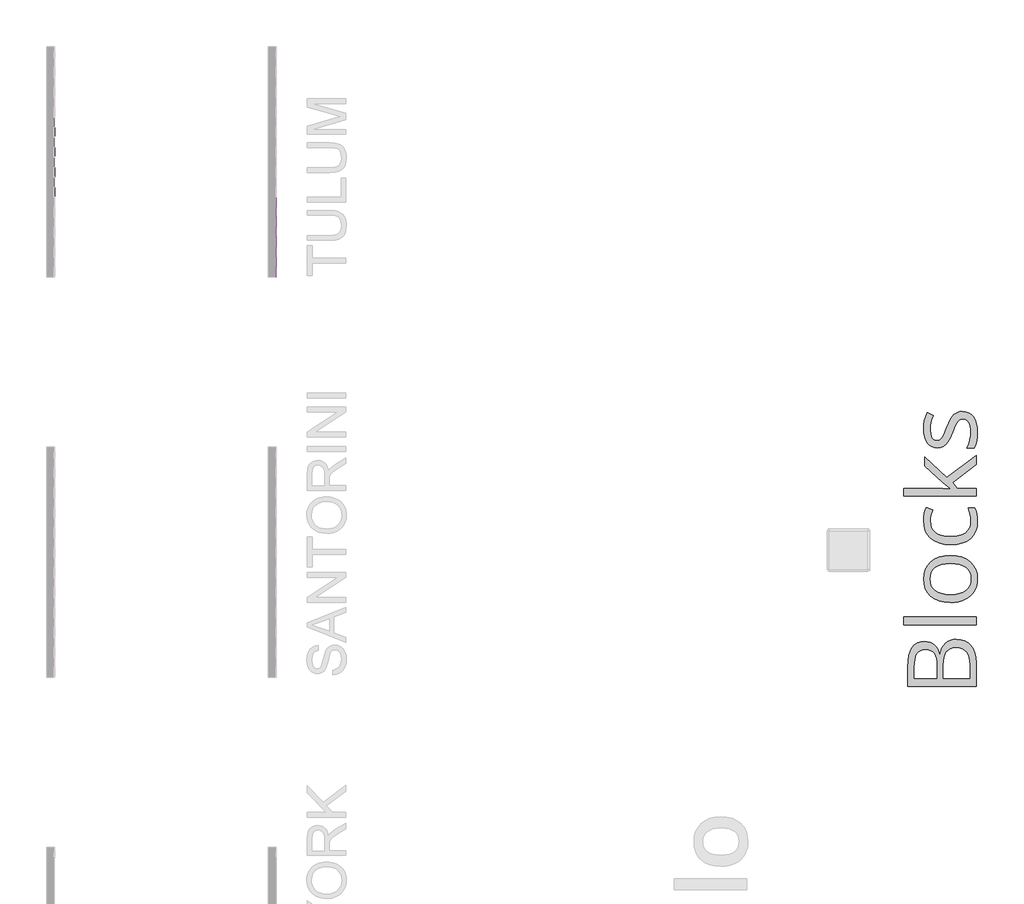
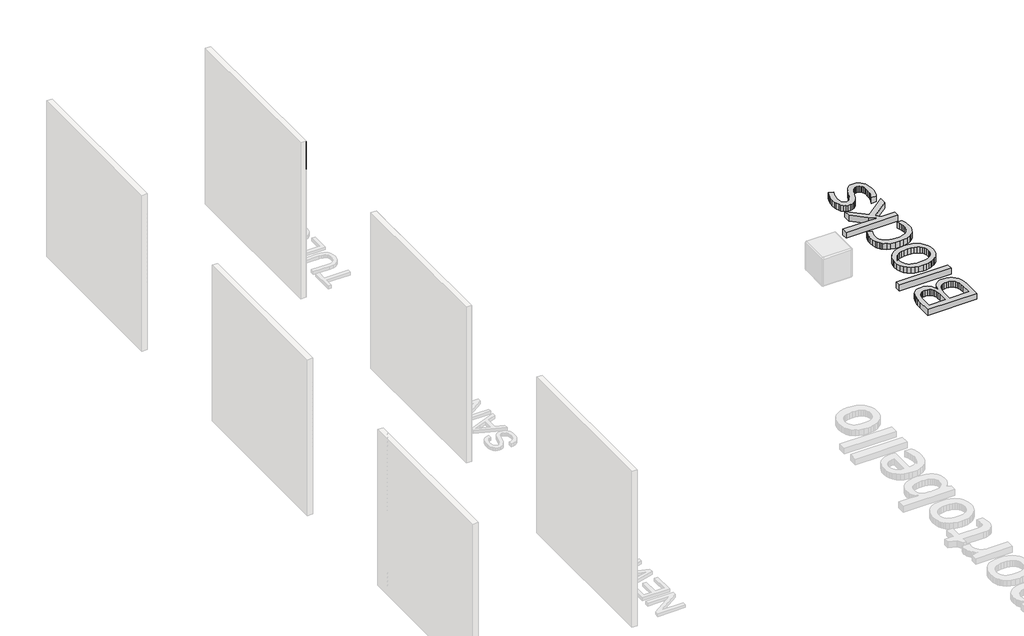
# One storey, part 34 of 45: 118 proxies.
"""IFC4 building model written with IfcOpenShell, lengths in millimetres."""

from ifc_helpers import new_model, si_unit, origin, origin_with_axes, place, context, project, spatial, polyline, outline, extrude, transform, mapped, element, save
from components import generic_models_ab0f2c30

model = new_model("IFC4")

# Units and contexts
model_context = context("Model", 3, world=origin())
ifc_project = project(units=[si_unit("LENGTHUNIT", "METRE", prefix="MILLI")], contexts=[model_context])

# Site, building, storey
site = spatial("IfcSite", under=ifc_project)
building = spatial("IfcBuilding", under=site)
storey = spatial("IfcBuildingStorey", under=building, Name="PORTOBELLO - SHOWROOM", Elevation=0.0)

# Proxies
placement = place(None, origin())
generic_models_shape = generic_models_ab0f2c30(model_context)
element("IfcBuildingElementProxy", 1, Name="PBSHOP - HORIZONTES TULUM 6,5X23 : TULUM", ObjectType="PBSHOP - HORIZONTES TULUM 6,5X23 : TULUM", at=placement, inside=storey, context=model_context, shape_type="MappedRepresentation", body=[
    mapped(generic_models_shape, transform((69111.8826867, 15186.0588567, 2242.5), x_axis=(0.0, 0.0, 1.0), y_axis=(0.0, -1.0, 0.0), z_axis=(1.0, 0.0, 0.0))),
])
element("IfcBuildingElementProxy", 2, Name="PBSHOP - HORIZONTES TULUM 6,5X23 : TULUM", ObjectType="PBSHOP - HORIZONTES TULUM 6,5X23 : TULUM", at=placement, inside=storey, context=model_context, shape_type="MappedRepresentation", body=[
    mapped(generic_models_shape, transform((69111.8826867, 15420.0588567, 2242.5), x_axis=(0.0, 0.0, 1.0), y_axis=(0.0, -1.0, 0.0), z_axis=(1.0, 0.0, 0.0))),
])
element("IfcBuildingElementProxy", 3, Name="PBSHOP - HORIZONTES TULUM 6,5X23 : TULUM", ObjectType="PBSHOP - HORIZONTES TULUM 6,5X23 : TULUM", at=placement, inside=storey, context=model_context, shape_type="MappedRepresentation", body=[
    mapped(generic_models_shape, transform((69111.8826867, 15654.0588567, 2242.5), x_axis=(0.0, 0.0, 1.0), y_axis=(0.0, -1.0, 0.0), z_axis=(1.0, 0.0, 0.0))),
])
element("IfcBuildingElementProxy", 4, Name="PBSHOP - HORIZONTES TULUM 6,5X23 : TULUM", ObjectType="PBSHOP - HORIZONTES TULUM 6,5X23 : TULUM", at=placement, inside=storey, context=model_context, shape_type="MappedRepresentation", body=[
    mapped(generic_models_shape, transform((69111.8826867, 15888.0588567, 2242.5), x_axis=(0.0, 0.0, 1.0), y_axis=(0.0, -1.0, 0.0), z_axis=(1.0, 0.0, 0.0))),
])
element("IfcBuildingElementProxy", 5, Name="PBSHOP - HORIZONTES TULUM 6,5X23 : TULUM", ObjectType="PBSHOP - HORIZONTES TULUM 6,5X23 : TULUM", at=placement, inside=storey, context=model_context, shape_type="MappedRepresentation", body=[
    mapped(generic_models_shape, transform((69111.8826867, 15186.0588567, 2311.5), x_axis=(0.0, 0.0, 1.0), y_axis=(0.0, -1.0, 0.0), z_axis=(1.0, 0.0, 0.0))),
])
element("IfcBuildingElementProxy", 6, Name="PBSHOP - HORIZONTES TULUM 6,5X23 : TULUM", ObjectType="PBSHOP - HORIZONTES TULUM 6,5X23 : TULUM", at=placement, inside=storey, context=model_context, shape_type="MappedRepresentation", body=[
    mapped(generic_models_shape, transform((69111.8826867, 15420.0588567, 2311.5), x_axis=(0.0, 0.0, 1.0), y_axis=(0.0, -1.0, 0.0), z_axis=(1.0, 0.0, 0.0))),
])
element("IfcBuildingElementProxy", 7, Name="PBSHOP - HORIZONTES TULUM 6,5X23 : TULUM", ObjectType="PBSHOP - HORIZONTES TULUM 6,5X23 : TULUM", at=placement, inside=storey, context=model_context, shape_type="MappedRepresentation", body=[
    mapped(generic_models_shape, transform((69111.8826867, 15654.0588567, 2311.5), x_axis=(0.0, 0.0, 1.0), y_axis=(0.0, -1.0, 0.0), z_axis=(1.0, 0.0, 0.0))),
])
element("IfcBuildingElementProxy", 8, Name="PBSHOP - HORIZONTES TULUM 6,5X23 : TULUM", ObjectType="PBSHOP - HORIZONTES TULUM 6,5X23 : TULUM", at=placement, inside=storey, context=model_context, shape_type="MappedRepresentation", body=[
    mapped(generic_models_shape, transform((69111.8826867, 15888.0588567, 2311.5), x_axis=(0.0, 0.0, 1.0), y_axis=(0.0, -1.0, 0.0), z_axis=(1.0, 0.0, 0.0))),
])
element("IfcBuildingElementProxy", 9, Name="PBSHOP - HORIZONTES TULUM 6,5X23 : TULUM", ObjectType="PBSHOP - HORIZONTES TULUM 6,5X23 : TULUM", at=placement, inside=storey, context=model_context, shape_type="MappedRepresentation", body=[
    mapped(generic_models_shape, transform((69111.8826867, 15186.0588567, 2380.5), x_axis=(0.0, 0.0, 1.0), y_axis=(0.0, -1.0, 0.0), z_axis=(1.0, 0.0, 0.0))),
])
element("IfcBuildingElementProxy", 10, Name="PBSHOP - HORIZONTES TULUM 6,5X23 : TULUM", ObjectType="PBSHOP - HORIZONTES TULUM 6,5X23 : TULUM", at=placement, inside=storey, context=model_context, shape_type="MappedRepresentation", body=[
    mapped(generic_models_shape, transform((69111.8826867, 15420.0588567, 2380.5), x_axis=(0.0, 0.0, 1.0), y_axis=(0.0, -1.0, 0.0), z_axis=(1.0, 0.0, 0.0))),
])
element("IfcBuildingElementProxy", 11, Name="PBSHOP - HORIZONTES TULUM 6,5X23 : TULUM", ObjectType="PBSHOP - HORIZONTES TULUM 6,5X23 : TULUM", at=placement, inside=storey, context=model_context, shape_type="MappedRepresentation", body=[
    mapped(generic_models_shape, transform((69111.8826867, 15654.0588567, 2380.5), x_axis=(0.0, 0.0, 1.0), y_axis=(0.0, -1.0, 0.0), z_axis=(1.0, 0.0, 0.0))),
])
element("IfcBuildingElementProxy", 12, Name="PBSHOP - HORIZONTES TULUM 6,5X23 : TULUM", ObjectType="PBSHOP - HORIZONTES TULUM 6,5X23 : TULUM", at=placement, inside=storey, context=model_context, shape_type="MappedRepresentation", body=[
    mapped(generic_models_shape, transform((69111.8826867, 15888.0588567, 2380.5), x_axis=(0.0, 0.0, 1.0), y_axis=(0.0, -1.0, 0.0), z_axis=(1.0, 0.0, 0.0))),
])
element("IfcBuildingElementProxy", 13, Name="PBSHOP - HORIZONTES TULUM 6,5X23 : TULUM", ObjectType="PBSHOP - HORIZONTES TULUM 6,5X23 : TULUM", at=placement, inside=storey, context=model_context, shape_type="MappedRepresentation", body=[
    mapped(generic_models_shape, transform((69111.8826867, 15186.0588567, 2449.5), x_axis=(0.0, 0.0, 1.0), y_axis=(0.0, -1.0, 0.0), z_axis=(1.0, 0.0, 0.0))),
])
element("IfcBuildingElementProxy", 14, Name="PBSHOP - HORIZONTES TULUM 6,5X23 : TULUM", ObjectType="PBSHOP - HORIZONTES TULUM 6,5X23 : TULUM", at=placement, inside=storey, context=model_context, shape_type="MappedRepresentation", body=[
    mapped(generic_models_shape, transform((69111.8826867, 15420.0588567, 2449.5), x_axis=(0.0, 0.0, 1.0), y_axis=(0.0, -1.0, 0.0), z_axis=(1.0, 0.0, 0.0))),
])
element("IfcBuildingElementProxy", 15, Name="PBSHOP - HORIZONTES TULUM 6,5X23 : TULUM", ObjectType="PBSHOP - HORIZONTES TULUM 6,5X23 : TULUM", at=placement, inside=storey, context=model_context, shape_type="MappedRepresentation", body=[
    mapped(generic_models_shape, transform((69111.8826867, 15654.0588567, 2449.5), x_axis=(0.0, 0.0, 1.0), y_axis=(0.0, -1.0, 0.0), z_axis=(1.0, 0.0, 0.0))),
])
element("IfcBuildingElementProxy", 16, Name="PBSHOP - HORIZONTES TULUM 6,5X23 : TULUM", ObjectType="PBSHOP - HORIZONTES TULUM 6,5X23 : TULUM", at=placement, inside=storey, context=model_context, shape_type="MappedRepresentation", body=[
    mapped(generic_models_shape, transform((69111.8826867, 15888.0588567, 2449.5), x_axis=(0.0, 0.0, 1.0), y_axis=(0.0, -1.0, 0.0), z_axis=(1.0, 0.0, 0.0))),
])
element("IfcBuildingElementProxy", 17, Name="PBSHOP - HORIZONTES TULUM 6,5X23 : TULUM", ObjectType="PBSHOP - HORIZONTES TULUM 6,5X23 : TULUM", at=placement, inside=storey, context=model_context, shape_type="MappedRepresentation", body=[
    mapped(generic_models_shape, transform((69111.8826867, 15186.0588567, 2518.5), x_axis=(0.0, 0.0, 1.0), y_axis=(0.0, -1.0, 0.0), z_axis=(1.0, 0.0, 0.0))),
])
element("IfcBuildingElementProxy", 18, Name="PBSHOP - HORIZONTES TULUM 6,5X23 : TULUM", ObjectType="PBSHOP - HORIZONTES TULUM 6,5X23 : TULUM", at=placement, inside=storey, context=model_context, shape_type="MappedRepresentation", body=[
    mapped(generic_models_shape, transform((69111.8826867, 15420.0588567, 2518.5), x_axis=(0.0, 0.0, 1.0), y_axis=(0.0, -1.0, 0.0), z_axis=(1.0, 0.0, 0.0))),
])
element("IfcBuildingElementProxy", 19, Name="PBSHOP - HORIZONTES TULUM 6,5X23 : TULUM", ObjectType="PBSHOP - HORIZONTES TULUM 6,5X23 : TULUM", at=placement, inside=storey, context=model_context, shape_type="MappedRepresentation", body=[
    mapped(generic_models_shape, transform((69111.8826867, 15654.0588567, 2518.5), x_axis=(0.0, 0.0, 1.0), y_axis=(0.0, -1.0, 0.0), z_axis=(1.0, 0.0, 0.0))),
])
element("IfcBuildingElementProxy", 20, Name="PBSHOP - HORIZONTES TULUM 6,5X23 : TULUM", ObjectType="PBSHOP - HORIZONTES TULUM 6,5X23 : TULUM", at=placement, inside=storey, context=model_context, shape_type="MappedRepresentation", body=[
    mapped(generic_models_shape, transform((69111.8826867, 15888.0588567, 2518.5), x_axis=(0.0, 0.0, 1.0), y_axis=(0.0, -1.0, 0.0), z_axis=(1.0, 0.0, 0.0))),
])
element("IfcBuildingElementProxy", 21, Name="PBSHOP - HORIZONTES TULUM 6,5X23 : TULUM", ObjectType="PBSHOP - HORIZONTES TULUM 6,5X23 : TULUM", at=placement, inside=storey, context=model_context, shape_type="MappedRepresentation", body=[
    mapped(generic_models_shape, transform((69111.8826867, 15186.0588567, 2587.5), x_axis=(0.0, 0.0, 1.0), y_axis=(0.0, -1.0, 0.0), z_axis=(1.0, 0.0, 0.0))),
])
element("IfcBuildingElementProxy", 22, Name="PBSHOP - HORIZONTES TULUM 6,5X23 : TULUM", ObjectType="PBSHOP - HORIZONTES TULUM 6,5X23 : TULUM", at=placement, inside=storey, context=model_context, shape_type="MappedRepresentation", body=[
    mapped(generic_models_shape, transform((69111.8826867, 15420.0588567, 2587.5), x_axis=(0.0, 0.0, 1.0), y_axis=(0.0, -1.0, 0.0), z_axis=(1.0, 0.0, 0.0))),
])
element("IfcBuildingElementProxy", 23, Name="PBSHOP - HORIZONTES TULUM 6,5X23 : TULUM", ObjectType="PBSHOP - HORIZONTES TULUM 6,5X23 : TULUM", at=placement, inside=storey, context=model_context, shape_type="MappedRepresentation", body=[
    mapped(generic_models_shape, transform((69111.8826867, 15654.0588567, 2587.5), x_axis=(0.0, 0.0, 1.0), y_axis=(0.0, -1.0, 0.0), z_axis=(1.0, 0.0, 0.0))),
])
element("IfcBuildingElementProxy", 24, Name="PBSHOP - HORIZONTES TULUM 6,5X23 : TULUM", ObjectType="PBSHOP - HORIZONTES TULUM 6,5X23 : TULUM", at=placement, inside=storey, context=model_context, shape_type="MappedRepresentation", body=[
    mapped(generic_models_shape, transform((69111.8826867, 15888.0588567, 2587.5), x_axis=(0.0, 0.0, 1.0), y_axis=(0.0, -1.0, 0.0), z_axis=(1.0, 0.0, 0.0))),
])
element("IfcBuildingElementProxy", 25, Name="PBSHOP - HORIZONTES TULUM 6,5X23 : TULUM", ObjectType="PBSHOP - HORIZONTES TULUM 6,5X23 : TULUM", at=placement, inside=storey, context=model_context, shape_type="MappedRepresentation", body=[
    mapped(generic_models_shape, transform((69111.8826867, 15186.0588567, 2656.5), x_axis=(0.0, 0.0, 1.0), y_axis=(0.0, -1.0, 0.0), z_axis=(1.0, 0.0, 0.0))),
])
element("IfcBuildingElementProxy", 26, Name="PBSHOP - HORIZONTES TULUM 6,5X23 : TULUM", ObjectType="PBSHOP - HORIZONTES TULUM 6,5X23 : TULUM", at=placement, inside=storey, context=model_context, shape_type="MappedRepresentation", body=[
    mapped(generic_models_shape, transform((69111.8826867, 15420.0588567, 2656.5), x_axis=(0.0, 0.0, 1.0), y_axis=(0.0, -1.0, 0.0), z_axis=(1.0, 0.0, 0.0))),
])
element("IfcBuildingElementProxy", 27, Name="PBSHOP - HORIZONTES TULUM 6,5X23 : TULUM", ObjectType="PBSHOP - HORIZONTES TULUM 6,5X23 : TULUM", at=placement, inside=storey, context=model_context, shape_type="MappedRepresentation", body=[
    mapped(generic_models_shape, transform((69111.8826867, 15654.0588567, 2656.5), x_axis=(0.0, 0.0, 1.0), y_axis=(0.0, -1.0, 0.0), z_axis=(1.0, 0.0, 0.0))),
])
element("IfcBuildingElementProxy", 28, Name="PBSHOP - HORIZONTES TULUM 6,5X23 : TULUM", ObjectType="PBSHOP - HORIZONTES TULUM 6,5X23 : TULUM", at=placement, inside=storey, context=model_context, shape_type="MappedRepresentation", body=[
    mapped(generic_models_shape, transform((69111.8826867, 15888.0588567, 2656.5), x_axis=(0.0, 0.0, 1.0), y_axis=(0.0, -1.0, 0.0), z_axis=(1.0, 0.0, 0.0))),
])
element("IfcBuildingElementProxy", 29, Name="PBSHOP - HORIZONTES TULUM 6,5X23 : TULUM AGAVE", ObjectType="PBSHOP - HORIZONTES TULUM 6,5X23 : TULUM AGAVE", at=placement, inside=storey, context=model_context, shape_type="MappedRepresentation", body=[
    mapped(generic_models_shape, transform((66511.8826867, 16122.0588567, 34.5), x_axis=(0.0, 0.0, 1.0), y_axis=(0.0, -1.0, 0.0), z_axis=(1.0, 0.0, 0.0))),
])
element("IfcBuildingElementProxy", 30, Name="PBSHOP - HORIZONTES TULUM 6,5X23 : TULUM AGAVE", ObjectType="PBSHOP - HORIZONTES TULUM 6,5X23 : TULUM AGAVE", at=placement, inside=storey, context=model_context, shape_type="MappedRepresentation", body=[
    mapped(generic_models_shape, transform((66511.8826867, 16356.0588567, 34.5), x_axis=(0.0, 0.0, 1.0), y_axis=(0.0, -1.0, 0.0), z_axis=(1.0, 0.0, 0.0))),
])
element("IfcBuildingElementProxy", 31, Name="PBSHOP - HORIZONTES TULUM 6,5X23 : TULUM AGAVE", ObjectType="PBSHOP - HORIZONTES TULUM 6,5X23 : TULUM AGAVE", at=placement, inside=storey, context=model_context, shape_type="MappedRepresentation", body=[
    mapped(generic_models_shape, transform((66511.8826867, 16590.0588567, 34.5), x_axis=(0.0, 0.0, 1.0), y_axis=(0.0, -1.0, 0.0), z_axis=(1.0, 0.0, 0.0))),
])
element("IfcBuildingElementProxy", 32, Name="PBSHOP - HORIZONTES TULUM 6,5X23 : TULUM AGAVE", ObjectType="PBSHOP - HORIZONTES TULUM 6,5X23 : TULUM AGAVE", at=placement, inside=storey, context=model_context, shape_type="MappedRepresentation", body=[
    mapped(generic_models_shape, transform((66511.8826867, 16824.0588567, 34.5), x_axis=(0.0, 0.0, 1.0), y_axis=(0.0, -1.0, 0.0), z_axis=(1.0, 0.0, 0.0))),
])
element("IfcBuildingElementProxy", 33, Name="PBSHOP - HORIZONTES TULUM 6,5X23 : TULUM AGAVE", ObjectType="PBSHOP - HORIZONTES TULUM 6,5X23 : TULUM AGAVE", at=placement, inside=storey, context=model_context, shape_type="MappedRepresentation", body=[
    mapped(generic_models_shape, transform((66511.8826867, 16122.0588567, 103.5), x_axis=(0.0, 0.0, 1.0), y_axis=(0.0, -1.0, 0.0), z_axis=(1.0, 0.0, 0.0))),
])
element("IfcBuildingElementProxy", 34, Name="PBSHOP - HORIZONTES TULUM 6,5X23 : TULUM AGAVE", ObjectType="PBSHOP - HORIZONTES TULUM 6,5X23 : TULUM AGAVE", at=placement, inside=storey, context=model_context, shape_type="MappedRepresentation", body=[
    mapped(generic_models_shape, transform((66511.8826867, 16356.0588567, 103.5), x_axis=(0.0, 0.0, 1.0), y_axis=(0.0, -1.0, 0.0), z_axis=(1.0, 0.0, 0.0))),
])
element("IfcBuildingElementProxy", 35, Name="PBSHOP - HORIZONTES TULUM 6,5X23 : TULUM AGAVE", ObjectType="PBSHOP - HORIZONTES TULUM 6,5X23 : TULUM AGAVE", at=placement, inside=storey, context=model_context, shape_type="MappedRepresentation", body=[
    mapped(generic_models_shape, transform((66511.8826867, 16590.0588567, 103.5), x_axis=(0.0, 0.0, 1.0), y_axis=(0.0, -1.0, 0.0), z_axis=(1.0, 0.0, 0.0))),
])
element("IfcBuildingElementProxy", 36, Name="PBSHOP - HORIZONTES TULUM 6,5X23 : TULUM AGAVE", ObjectType="PBSHOP - HORIZONTES TULUM 6,5X23 : TULUM AGAVE", at=placement, inside=storey, context=model_context, shape_type="MappedRepresentation", body=[
    mapped(generic_models_shape, transform((66511.8826867, 16824.0588567, 103.5), x_axis=(0.0, 0.0, 1.0), y_axis=(0.0, -1.0, 0.0), z_axis=(1.0, 0.0, 0.0))),
])
element("IfcBuildingElementProxy", 37, Name="PBSHOP - HORIZONTES TULUM 6,5X23 : TULUM AGAVE", ObjectType="PBSHOP - HORIZONTES TULUM 6,5X23 : TULUM AGAVE", at=placement, inside=storey, context=model_context, shape_type="MappedRepresentation", body=[
    mapped(generic_models_shape, transform((66511.8826867, 16122.0588567, 172.5), x_axis=(0.0, 0.0, 1.0), y_axis=(0.0, -1.0, 0.0), z_axis=(1.0, 0.0, 0.0))),
])
element("IfcBuildingElementProxy", 38, Name="PBSHOP - HORIZONTES TULUM 6,5X23 : TULUM AGAVE", ObjectType="PBSHOP - HORIZONTES TULUM 6,5X23 : TULUM AGAVE", at=placement, inside=storey, context=model_context, shape_type="MappedRepresentation", body=[
    mapped(generic_models_shape, transform((66511.8826867, 16356.0588567, 172.5), x_axis=(0.0, 0.0, 1.0), y_axis=(0.0, -1.0, 0.0), z_axis=(1.0, 0.0, 0.0))),
])
element("IfcBuildingElementProxy", 39, Name="PBSHOP - HORIZONTES TULUM 6,5X23 : TULUM AGAVE", ObjectType="PBSHOP - HORIZONTES TULUM 6,5X23 : TULUM AGAVE", at=placement, inside=storey, context=model_context, shape_type="MappedRepresentation", body=[
    mapped(generic_models_shape, transform((66511.8826867, 16590.0588567, 172.5), x_axis=(0.0, 0.0, 1.0), y_axis=(0.0, -1.0, 0.0), z_axis=(1.0, 0.0, 0.0))),
])
element("IfcBuildingElementProxy", 40, Name="PBSHOP - HORIZONTES TULUM 6,5X23 : TULUM AGAVE", ObjectType="PBSHOP - HORIZONTES TULUM 6,5X23 : TULUM AGAVE", at=placement, inside=storey, context=model_context, shape_type="MappedRepresentation", body=[
    mapped(generic_models_shape, transform((66511.8826867, 16824.0588567, 172.5), x_axis=(0.0, 0.0, 1.0), y_axis=(0.0, -1.0, 0.0), z_axis=(1.0, 0.0, 0.0))),
])
element("IfcBuildingElementProxy", 41, Name="PBSHOP - HORIZONTES TULUM 6,5X23 : TULUM AGAVE", ObjectType="PBSHOP - HORIZONTES TULUM 6,5X23 : TULUM AGAVE", at=placement, inside=storey, context=model_context, shape_type="MappedRepresentation", body=[
    mapped(generic_models_shape, transform((66511.8826867, 16122.0588567, 241.5), x_axis=(0.0, 0.0, 1.0), y_axis=(0.0, -1.0, 0.0), z_axis=(1.0, 0.0, 0.0))),
])
element("IfcBuildingElementProxy", 42, Name="PBSHOP - HORIZONTES TULUM 6,5X23 : TULUM AGAVE", ObjectType="PBSHOP - HORIZONTES TULUM 6,5X23 : TULUM AGAVE", at=placement, inside=storey, context=model_context, shape_type="MappedRepresentation", body=[
    mapped(generic_models_shape, transform((66511.8826867, 16356.0588567, 241.5), x_axis=(0.0, 0.0, 1.0), y_axis=(0.0, -1.0, 0.0), z_axis=(1.0, 0.0, 0.0))),
])
element("IfcBuildingElementProxy", 43, Name="PBSHOP - HORIZONTES TULUM 6,5X23 : TULUM AGAVE", ObjectType="PBSHOP - HORIZONTES TULUM 6,5X23 : TULUM AGAVE", at=placement, inside=storey, context=model_context, shape_type="MappedRepresentation", body=[
    mapped(generic_models_shape, transform((66511.8826867, 16590.0588567, 241.5), x_axis=(0.0, 0.0, 1.0), y_axis=(0.0, -1.0, 0.0), z_axis=(1.0, 0.0, 0.0))),
])
element("IfcBuildingElementProxy", 44, Name="PBSHOP - HORIZONTES TULUM 6,5X23 : TULUM AGAVE", ObjectType="PBSHOP - HORIZONTES TULUM 6,5X23 : TULUM AGAVE", at=placement, inside=storey, context=model_context, shape_type="MappedRepresentation", body=[
    mapped(generic_models_shape, transform((66511.8826867, 16824.0588567, 241.5), x_axis=(0.0, 0.0, 1.0), y_axis=(0.0, -1.0, 0.0), z_axis=(1.0, 0.0, 0.0))),
])
element("IfcBuildingElementProxy", 45, Name="PBSHOP - HORIZONTES TULUM 6,5X23 : TULUM AGAVE", ObjectType="PBSHOP - HORIZONTES TULUM 6,5X23 : TULUM AGAVE", at=placement, inside=storey, context=model_context, shape_type="MappedRepresentation", body=[
    mapped(generic_models_shape, transform((66511.8826867, 16122.0588567, 310.5), x_axis=(0.0, 0.0, 1.0), y_axis=(0.0, -1.0, 0.0), z_axis=(1.0, 0.0, 0.0))),
])
element("IfcBuildingElementProxy", 46, Name="PBSHOP - HORIZONTES TULUM 6,5X23 : TULUM AGAVE", ObjectType="PBSHOP - HORIZONTES TULUM 6,5X23 : TULUM AGAVE", at=placement, inside=storey, context=model_context, shape_type="MappedRepresentation", body=[
    mapped(generic_models_shape, transform((66511.8826867, 16356.0588567, 310.5), x_axis=(0.0, 0.0, 1.0), y_axis=(0.0, -1.0, 0.0), z_axis=(1.0, 0.0, 0.0))),
])
element("IfcBuildingElementProxy", 47, Name="PBSHOP - HORIZONTES TULUM 6,5X23 : TULUM AGAVE", ObjectType="PBSHOP - HORIZONTES TULUM 6,5X23 : TULUM AGAVE", at=placement, inside=storey, context=model_context, shape_type="MappedRepresentation", body=[
    mapped(generic_models_shape, transform((66511.8826867, 16590.0588567, 310.5), x_axis=(0.0, 0.0, 1.0), y_axis=(0.0, -1.0, 0.0), z_axis=(1.0, 0.0, 0.0))),
])
element("IfcBuildingElementProxy", 48, Name="PBSHOP - HORIZONTES TULUM 6,5X23 : TULUM AGAVE", ObjectType="PBSHOP - HORIZONTES TULUM 6,5X23 : TULUM AGAVE", at=placement, inside=storey, context=model_context, shape_type="MappedRepresentation", body=[
    mapped(generic_models_shape, transform((66511.8826867, 16824.0588567, 310.5), x_axis=(0.0, 0.0, 1.0), y_axis=(0.0, -1.0, 0.0), z_axis=(1.0, 0.0, 0.0))),
])
element("IfcBuildingElementProxy", 49, Name="PBSHOP - HORIZONTES TULUM 6,5X23 : TULUM AGAVE", ObjectType="PBSHOP - HORIZONTES TULUM 6,5X23 : TULUM AGAVE", at=placement, inside=storey, context=model_context, shape_type="MappedRepresentation", body=[
    mapped(generic_models_shape, transform((66511.8826867, 16122.0588567, 379.5), x_axis=(0.0, 0.0, 1.0), y_axis=(0.0, -1.0, 0.0), z_axis=(1.0, 0.0, 0.0))),
])
element("IfcBuildingElementProxy", 50, Name="PBSHOP - HORIZONTES TULUM 6,5X23 : TULUM AGAVE", ObjectType="PBSHOP - HORIZONTES TULUM 6,5X23 : TULUM AGAVE", at=placement, inside=storey, context=model_context, shape_type="MappedRepresentation", body=[
    mapped(generic_models_shape, transform((66511.8826867, 16356.0588567, 379.5), x_axis=(0.0, 0.0, 1.0), y_axis=(0.0, -1.0, 0.0), z_axis=(1.0, 0.0, 0.0))),
])
element("IfcBuildingElementProxy", 51, Name="PBSHOP - HORIZONTES TULUM 6,5X23 : TULUM AGAVE", ObjectType="PBSHOP - HORIZONTES TULUM 6,5X23 : TULUM AGAVE", at=placement, inside=storey, context=model_context, shape_type="MappedRepresentation", body=[
    mapped(generic_models_shape, transform((66511.8826867, 16590.0588567, 379.5), x_axis=(0.0, 0.0, 1.0), y_axis=(0.0, -1.0, 0.0), z_axis=(1.0, 0.0, 0.0))),
])
element("IfcBuildingElementProxy", 52, Name="PBSHOP - HORIZONTES TULUM 6,5X23 : TULUM AGAVE", ObjectType="PBSHOP - HORIZONTES TULUM 6,5X23 : TULUM AGAVE", at=placement, inside=storey, context=model_context, shape_type="MappedRepresentation", body=[
    mapped(generic_models_shape, transform((66511.8826867, 16824.0588567, 379.5), x_axis=(0.0, 0.0, 1.0), y_axis=(0.0, -1.0, 0.0), z_axis=(1.0, 0.0, 0.0))),
])
element("IfcBuildingElementProxy", 53, Name="PBSHOP - HORIZONTES TULUM 6,5X23 : TULUM AGAVE", ObjectType="PBSHOP - HORIZONTES TULUM 6,5X23 : TULUM AGAVE", at=placement, inside=storey, context=model_context, shape_type="MappedRepresentation", body=[
    mapped(generic_models_shape, transform((66511.8826867, 16122.0588567, 448.5), x_axis=(0.0, 0.0, 1.0), y_axis=(0.0, -1.0, 0.0), z_axis=(1.0, 0.0, 0.0))),
])
element("IfcBuildingElementProxy", 54, Name="PBSHOP - HORIZONTES TULUM 6,5X23 : TULUM AGAVE", ObjectType="PBSHOP - HORIZONTES TULUM 6,5X23 : TULUM AGAVE", at=placement, inside=storey, context=model_context, shape_type="MappedRepresentation", body=[
    mapped(generic_models_shape, transform((66511.8826867, 16356.0588567, 448.5), x_axis=(0.0, 0.0, 1.0), y_axis=(0.0, -1.0, 0.0), z_axis=(1.0, 0.0, 0.0))),
])
element("IfcBuildingElementProxy", 55, Name="PBSHOP - HORIZONTES TULUM 6,5X23 : TULUM AGAVE", ObjectType="PBSHOP - HORIZONTES TULUM 6,5X23 : TULUM AGAVE", at=placement, inside=storey, context=model_context, shape_type="MappedRepresentation", body=[
    mapped(generic_models_shape, transform((66511.8826867, 16590.0588567, 448.5), x_axis=(0.0, 0.0, 1.0), y_axis=(0.0, -1.0, 0.0), z_axis=(1.0, 0.0, 0.0))),
])
element("IfcBuildingElementProxy", 56, Name="PBSHOP - HORIZONTES TULUM 6,5X23 : TULUM AGAVE", ObjectType="PBSHOP - HORIZONTES TULUM 6,5X23 : TULUM AGAVE", at=placement, inside=storey, context=model_context, shape_type="MappedRepresentation", body=[
    mapped(generic_models_shape, transform((66511.8826867, 16824.0588567, 448.5), x_axis=(0.0, 0.0, 1.0), y_axis=(0.0, -1.0, 0.0), z_axis=(1.0, 0.0, 0.0))),
])
element("IfcBuildingElementProxy", 57, Name="PBSHOP - HORIZONTES TULUM 6,5X23 : TULUM AGAVE", ObjectType="PBSHOP - HORIZONTES TULUM 6,5X23 : TULUM AGAVE", at=placement, inside=storey, context=model_context, shape_type="MappedRepresentation", body=[
    mapped(generic_models_shape, transform((66511.8826867, 16122.0588567, 517.5), x_axis=(0.0, 0.0, 1.0), y_axis=(0.0, -1.0, 0.0), z_axis=(1.0, 0.0, 0.0))),
])
element("IfcBuildingElementProxy", 58, Name="PBSHOP - HORIZONTES TULUM 6,5X23 : TULUM AGAVE", ObjectType="PBSHOP - HORIZONTES TULUM 6,5X23 : TULUM AGAVE", at=placement, inside=storey, context=model_context, shape_type="MappedRepresentation", body=[
    mapped(generic_models_shape, transform((66511.8826867, 16356.0588567, 517.5), x_axis=(0.0, 0.0, 1.0), y_axis=(0.0, -1.0, 0.0), z_axis=(1.0, 0.0, 0.0))),
])
element("IfcBuildingElementProxy", 59, Name="PBSHOP - HORIZONTES TULUM 6,5X23 : TULUM AGAVE", ObjectType="PBSHOP - HORIZONTES TULUM 6,5X23 : TULUM AGAVE", at=placement, inside=storey, context=model_context, shape_type="MappedRepresentation", body=[
    mapped(generic_models_shape, transform((66511.8826867, 16590.0588567, 517.5), x_axis=(0.0, 0.0, 1.0), y_axis=(0.0, -1.0, 0.0), z_axis=(1.0, 0.0, 0.0))),
])
element("IfcBuildingElementProxy", 60, Name="PBSHOP - HORIZONTES TULUM 6,5X23 : TULUM AGAVE", ObjectType="PBSHOP - HORIZONTES TULUM 6,5X23 : TULUM AGAVE", at=placement, inside=storey, context=model_context, shape_type="MappedRepresentation", body=[
    mapped(generic_models_shape, transform((66511.8826867, 16824.0588567, 517.5), x_axis=(0.0, 0.0, 1.0), y_axis=(0.0, -1.0, 0.0), z_axis=(1.0, 0.0, 0.0))),
])
element("IfcBuildingElementProxy", 61, Name="PBSHOP - HORIZONTES TULUM 6,5X23 : TULUM AGAVE", ObjectType="PBSHOP - HORIZONTES TULUM 6,5X23 : TULUM AGAVE", at=placement, inside=storey, context=model_context, shape_type="MappedRepresentation", body=[
    mapped(generic_models_shape, transform((66511.8826867, 16122.0588567, 586.5), x_axis=(0.0, 0.0, 1.0), y_axis=(0.0, -1.0, 0.0), z_axis=(1.0, 0.0, 0.0))),
])
element("IfcBuildingElementProxy", 62, Name="PBSHOP - HORIZONTES TULUM 6,5X23 : TULUM AGAVE", ObjectType="PBSHOP - HORIZONTES TULUM 6,5X23 : TULUM AGAVE", at=placement, inside=storey, context=model_context, shape_type="MappedRepresentation", body=[
    mapped(generic_models_shape, transform((66511.8826867, 16356.0588567, 586.5), x_axis=(0.0, 0.0, 1.0), y_axis=(0.0, -1.0, 0.0), z_axis=(1.0, 0.0, 0.0))),
])
element("IfcBuildingElementProxy", 63, Name="PBSHOP - HORIZONTES TULUM 6,5X23 : TULUM AGAVE", ObjectType="PBSHOP - HORIZONTES TULUM 6,5X23 : TULUM AGAVE", at=placement, inside=storey, context=model_context, shape_type="MappedRepresentation", body=[
    mapped(generic_models_shape, transform((66511.8826867, 16590.0588567, 586.5), x_axis=(0.0, 0.0, 1.0), y_axis=(0.0, -1.0, 0.0), z_axis=(1.0, 0.0, 0.0))),
])
element("IfcBuildingElementProxy", 64, Name="PBSHOP - HORIZONTES TULUM 6,5X23 : TULUM AGAVE", ObjectType="PBSHOP - HORIZONTES TULUM 6,5X23 : TULUM AGAVE", at=placement, inside=storey, context=model_context, shape_type="MappedRepresentation", body=[
    mapped(generic_models_shape, transform((66511.8826867, 16824.0588567, 586.5), x_axis=(0.0, 0.0, 1.0), y_axis=(0.0, -1.0, 0.0), z_axis=(1.0, 0.0, 0.0))),
])
element("IfcBuildingElementProxy", 65, Name="PBSHOP - HORIZONTES TULUM 6,5X23 : TULUM AGAVE", ObjectType="PBSHOP - HORIZONTES TULUM 6,5X23 : TULUM AGAVE", at=placement, inside=storey, context=model_context, shape_type="MappedRepresentation", body=[
    mapped(generic_models_shape, transform((66511.8826867, 16122.0588567, 655.5), x_axis=(0.0, 0.0, 1.0), y_axis=(0.0, -1.0, 0.0), z_axis=(1.0, 0.0, 0.0))),
])
element("IfcBuildingElementProxy", 66, Name="PBSHOP - HORIZONTES TULUM 6,5X23 : TULUM AGAVE", ObjectType="PBSHOP - HORIZONTES TULUM 6,5X23 : TULUM AGAVE", at=placement, inside=storey, context=model_context, shape_type="MappedRepresentation", body=[
    mapped(generic_models_shape, transform((66511.8826867, 16356.0588567, 655.5), x_axis=(0.0, 0.0, 1.0), y_axis=(0.0, -1.0, 0.0), z_axis=(1.0, 0.0, 0.0))),
])
element("IfcBuildingElementProxy", 67, Name="PBSHOP - HORIZONTES TULUM 6,5X23 : TULUM AGAVE", ObjectType="PBSHOP - HORIZONTES TULUM 6,5X23 : TULUM AGAVE", at=placement, inside=storey, context=model_context, shape_type="MappedRepresentation", body=[
    mapped(generic_models_shape, transform((66511.8826867, 16590.0588567, 655.5), x_axis=(0.0, 0.0, 1.0), y_axis=(0.0, -1.0, 0.0), z_axis=(1.0, 0.0, 0.0))),
])
element("IfcBuildingElementProxy", 68, Name="PBSHOP - HORIZONTES TULUM 6,5X23 : TULUM AGAVE", ObjectType="PBSHOP - HORIZONTES TULUM 6,5X23 : TULUM AGAVE", at=placement, inside=storey, context=model_context, shape_type="MappedRepresentation", body=[
    mapped(generic_models_shape, transform((66511.8826867, 16824.0588567, 655.5), x_axis=(0.0, 0.0, 1.0), y_axis=(0.0, -1.0, 0.0), z_axis=(1.0, 0.0, 0.0))),
])
element("IfcBuildingElementProxy", 69, Name="PBSHOP - HORIZONTES TULUM 6,5X23 : TULUM AGAVE", ObjectType="PBSHOP - HORIZONTES TULUM 6,5X23 : TULUM AGAVE", at=placement, inside=storey, context=model_context, shape_type="MappedRepresentation", body=[
    mapped(generic_models_shape, transform((66511.8826867, 16122.0588567, 724.5), x_axis=(0.0, 0.0, 1.0), y_axis=(0.0, -1.0, 0.0), z_axis=(1.0, 0.0, 0.0))),
])
element("IfcBuildingElementProxy", 70, Name="PBSHOP - HORIZONTES TULUM 6,5X23 : TULUM AGAVE", ObjectType="PBSHOP - HORIZONTES TULUM 6,5X23 : TULUM AGAVE", at=placement, inside=storey, context=model_context, shape_type="MappedRepresentation", body=[
    mapped(generic_models_shape, transform((66511.8826867, 16356.0588567, 724.5), x_axis=(0.0, 0.0, 1.0), y_axis=(0.0, -1.0, 0.0), z_axis=(1.0, 0.0, 0.0))),
])
element("IfcBuildingElementProxy", 71, Name="PBSHOP - HORIZONTES TULUM 6,5X23 : TULUM AGAVE", ObjectType="PBSHOP - HORIZONTES TULUM 6,5X23 : TULUM AGAVE", at=placement, inside=storey, context=model_context, shape_type="MappedRepresentation", body=[
    mapped(generic_models_shape, transform((66511.8826867, 16590.0588567, 724.5), x_axis=(0.0, 0.0, 1.0), y_axis=(0.0, -1.0, 0.0), z_axis=(1.0, 0.0, 0.0))),
])
element("IfcBuildingElementProxy", 72, Name="PBSHOP - HORIZONTES TULUM 6,5X23 : TULUM AGAVE", ObjectType="PBSHOP - HORIZONTES TULUM 6,5X23 : TULUM AGAVE", at=placement, inside=storey, context=model_context, shape_type="MappedRepresentation", body=[
    mapped(generic_models_shape, transform((66511.8826867, 16824.0588567, 724.5), x_axis=(0.0, 0.0, 1.0), y_axis=(0.0, -1.0, 0.0), z_axis=(1.0, 0.0, 0.0))),
])
element("IfcBuildingElementProxy", 73, Name="PBSHOP - HORIZONTES TULUM 6,5X23 : TULUM AGAVE", ObjectType="PBSHOP - HORIZONTES TULUM 6,5X23 : TULUM AGAVE", at=placement, inside=storey, context=model_context, shape_type="MappedRepresentation", body=[
    mapped(generic_models_shape, transform((66511.8826867, 16122.0588567, 793.5), x_axis=(0.0, 0.0, 1.0), y_axis=(0.0, -1.0, 0.0), z_axis=(1.0, 0.0, 0.0))),
])
element("IfcBuildingElementProxy", 74, Name="PBSHOP - HORIZONTES TULUM 6,5X23 : TULUM AGAVE", ObjectType="PBSHOP - HORIZONTES TULUM 6,5X23 : TULUM AGAVE", at=placement, inside=storey, context=model_context, shape_type="MappedRepresentation", body=[
    mapped(generic_models_shape, transform((66511.8826867, 16356.0588567, 793.5), x_axis=(0.0, 0.0, 1.0), y_axis=(0.0, -1.0, 0.0), z_axis=(1.0, 0.0, 0.0))),
])
element("IfcBuildingElementProxy", 75, Name="PBSHOP - HORIZONTES TULUM 6,5X23 : TULUM AGAVE", ObjectType="PBSHOP - HORIZONTES TULUM 6,5X23 : TULUM AGAVE", at=placement, inside=storey, context=model_context, shape_type="MappedRepresentation", body=[
    mapped(generic_models_shape, transform((66511.8826867, 16590.0588567, 793.5), x_axis=(0.0, 0.0, 1.0), y_axis=(0.0, -1.0, 0.0), z_axis=(1.0, 0.0, 0.0))),
])
element("IfcBuildingElementProxy", 76, Name="PBSHOP - HORIZONTES TULUM 6,5X23 : TULUM AGAVE", ObjectType="PBSHOP - HORIZONTES TULUM 6,5X23 : TULUM AGAVE", at=placement, inside=storey, context=model_context, shape_type="MappedRepresentation", body=[
    mapped(generic_models_shape, transform((66511.8826867, 16824.0588567, 793.5), x_axis=(0.0, 0.0, 1.0), y_axis=(0.0, -1.0, 0.0), z_axis=(1.0, 0.0, 0.0))),
])
element("IfcBuildingElementProxy", 77, Name="PBSHOP - HORIZONTES TULUM 6,5X23 : TULUM AGAVE", ObjectType="PBSHOP - HORIZONTES TULUM 6,5X23 : TULUM AGAVE", at=placement, inside=storey, context=model_context, shape_type="MappedRepresentation", body=[
    mapped(generic_models_shape, transform((66511.8826867, 16122.0588567, 862.5), x_axis=(0.0, 0.0, 1.0), y_axis=(0.0, -1.0, 0.0), z_axis=(1.0, 0.0, 0.0))),
])
element("IfcBuildingElementProxy", 78, Name="PBSHOP - HORIZONTES TULUM 6,5X23 : TULUM AGAVE", ObjectType="PBSHOP - HORIZONTES TULUM 6,5X23 : TULUM AGAVE", at=placement, inside=storey, context=model_context, shape_type="MappedRepresentation", body=[
    mapped(generic_models_shape, transform((66511.8826867, 16356.0588567, 862.5), x_axis=(0.0, 0.0, 1.0), y_axis=(0.0, -1.0, 0.0), z_axis=(1.0, 0.0, 0.0))),
])
element("IfcBuildingElementProxy", 79, Name="PBSHOP - HORIZONTES TULUM 6,5X23 : TULUM AGAVE", ObjectType="PBSHOP - HORIZONTES TULUM 6,5X23 : TULUM AGAVE", at=placement, inside=storey, context=model_context, shape_type="MappedRepresentation", body=[
    mapped(generic_models_shape, transform((66511.8826867, 16590.0588567, 862.5), x_axis=(0.0, 0.0, 1.0), y_axis=(0.0, -1.0, 0.0), z_axis=(1.0, 0.0, 0.0))),
])
element("IfcBuildingElementProxy", 80, Name="PBSHOP - HORIZONTES TULUM 6,5X23 : TULUM AGAVE", ObjectType="PBSHOP - HORIZONTES TULUM 6,5X23 : TULUM AGAVE", at=placement, inside=storey, context=model_context, shape_type="MappedRepresentation", body=[
    mapped(generic_models_shape, transform((66511.8826867, 16824.0588567, 862.5), x_axis=(0.0, 0.0, 1.0), y_axis=(0.0, -1.0, 0.0), z_axis=(1.0, 0.0, 0.0))),
])
element("IfcBuildingElementProxy", 81, Name="PBSHOP - HORIZONTES TULUM 6,5X23 : TULUM AGAVE", ObjectType="PBSHOP - HORIZONTES TULUM 6,5X23 : TULUM AGAVE", at=placement, inside=storey, context=model_context, shape_type="MappedRepresentation", body=[
    mapped(generic_models_shape, transform((66511.8826867, 16122.0588567, 931.5), x_axis=(0.0, 0.0, 1.0), y_axis=(0.0, -1.0, 0.0), z_axis=(1.0, 0.0, 0.0))),
])
element("IfcBuildingElementProxy", 82, Name="PBSHOP - HORIZONTES TULUM 6,5X23 : TULUM AGAVE", ObjectType="PBSHOP - HORIZONTES TULUM 6,5X23 : TULUM AGAVE", at=placement, inside=storey, context=model_context, shape_type="MappedRepresentation", body=[
    mapped(generic_models_shape, transform((66511.8826867, 16356.0588567, 931.5), x_axis=(0.0, 0.0, 1.0), y_axis=(0.0, -1.0, 0.0), z_axis=(1.0, 0.0, 0.0))),
])
element("IfcBuildingElementProxy", 83, Name="PBSHOP - HORIZONTES TULUM 6,5X23 : TULUM AGAVE", ObjectType="PBSHOP - HORIZONTES TULUM 6,5X23 : TULUM AGAVE", at=placement, inside=storey, context=model_context, shape_type="MappedRepresentation", body=[
    mapped(generic_models_shape, transform((66511.8826867, 16590.0588567, 931.5), x_axis=(0.0, 0.0, 1.0), y_axis=(0.0, -1.0, 0.0), z_axis=(1.0, 0.0, 0.0))),
])
element("IfcBuildingElementProxy", 84, Name="PBSHOP - HORIZONTES TULUM 6,5X23 : TULUM AGAVE", ObjectType="PBSHOP - HORIZONTES TULUM 6,5X23 : TULUM AGAVE", at=placement, inside=storey, context=model_context, shape_type="MappedRepresentation", body=[
    mapped(generic_models_shape, transform((66511.8826867, 16824.0588567, 931.5), x_axis=(0.0, 0.0, 1.0), y_axis=(0.0, -1.0, 0.0), z_axis=(1.0, 0.0, 0.0))),
])
element("IfcBuildingElementProxy", 85, Name="PBSHOP - HORIZONTES TULUM 6,5X23 : TULUM AGAVE", ObjectType="PBSHOP - HORIZONTES TULUM 6,5X23 : TULUM AGAVE", at=placement, inside=storey, context=model_context, shape_type="MappedRepresentation", body=[
    mapped(generic_models_shape, transform((66511.8826867, 16122.0588567, 1000.5), x_axis=(0.0, 0.0, 1.0), y_axis=(0.0, -1.0, 0.0), z_axis=(1.0, 0.0, 0.0))),
])
element("IfcBuildingElementProxy", 86, Name="PBSHOP - HORIZONTES TULUM 6,5X23 : TULUM AGAVE", ObjectType="PBSHOP - HORIZONTES TULUM 6,5X23 : TULUM AGAVE", at=placement, inside=storey, context=model_context, shape_type="MappedRepresentation", body=[
    mapped(generic_models_shape, transform((66511.8826867, 16356.0588567, 1000.5), x_axis=(0.0, 0.0, 1.0), y_axis=(0.0, -1.0, 0.0), z_axis=(1.0, 0.0, 0.0))),
])
element("IfcBuildingElementProxy", 87, Name="PBSHOP - HORIZONTES TULUM 6,5X23 : TULUM AGAVE", ObjectType="PBSHOP - HORIZONTES TULUM 6,5X23 : TULUM AGAVE", at=placement, inside=storey, context=model_context, shape_type="MappedRepresentation", body=[
    mapped(generic_models_shape, transform((66511.8826867, 16590.0588567, 1000.5), x_axis=(0.0, 0.0, 1.0), y_axis=(0.0, -1.0, 0.0), z_axis=(1.0, 0.0, 0.0))),
])
element("IfcBuildingElementProxy", 88, Name="PBSHOP - HORIZONTES TULUM 6,5X23 : TULUM AGAVE", ObjectType="PBSHOP - HORIZONTES TULUM 6,5X23 : TULUM AGAVE", at=placement, inside=storey, context=model_context, shape_type="MappedRepresentation", body=[
    mapped(generic_models_shape, transform((66511.8826867, 16824.0588567, 1000.5), x_axis=(0.0, 0.0, 1.0), y_axis=(0.0, -1.0, 0.0), z_axis=(1.0, 0.0, 0.0))),
])
element("IfcBuildingElementProxy", 89, Name="PBSHOP - HORIZONTES TULUM 6,5X23 : TULUM AGAVE", ObjectType="PBSHOP - HORIZONTES TULUM 6,5X23 : TULUM AGAVE", at=placement, inside=storey, context=model_context, shape_type="MappedRepresentation", body=[
    mapped(generic_models_shape, transform((66511.8826867, 16122.0588567, 1069.5), x_axis=(0.0, 0.0, 1.0), y_axis=(0.0, -1.0, 0.0), z_axis=(1.0, 0.0, 0.0))),
])
element("IfcBuildingElementProxy", 90, Name="PBSHOP - HORIZONTES TULUM 6,5X23 : TULUM AGAVE", ObjectType="PBSHOP - HORIZONTES TULUM 6,5X23 : TULUM AGAVE", at=placement, inside=storey, context=model_context, shape_type="MappedRepresentation", body=[
    mapped(generic_models_shape, transform((66511.8826867, 16356.0588567, 1069.5), x_axis=(0.0, 0.0, 1.0), y_axis=(0.0, -1.0, 0.0), z_axis=(1.0, 0.0, 0.0))),
])
element("IfcBuildingElementProxy", 91, Name="PBSHOP - HORIZONTES TULUM 6,5X23 : TULUM AGAVE", ObjectType="PBSHOP - HORIZONTES TULUM 6,5X23 : TULUM AGAVE", at=placement, inside=storey, context=model_context, shape_type="MappedRepresentation", body=[
    mapped(generic_models_shape, transform((66511.8826867, 16590.0588567, 1069.5), x_axis=(0.0, 0.0, 1.0), y_axis=(0.0, -1.0, 0.0), z_axis=(1.0, 0.0, 0.0))),
])
element("IfcBuildingElementProxy", 92, Name="PBSHOP - HORIZONTES TULUM 6,5X23 : TULUM AGAVE", ObjectType="PBSHOP - HORIZONTES TULUM 6,5X23 : TULUM AGAVE", at=placement, inside=storey, context=model_context, shape_type="MappedRepresentation", body=[
    mapped(generic_models_shape, transform((66511.8826867, 16824.0588567, 1069.5), x_axis=(0.0, 0.0, 1.0), y_axis=(0.0, -1.0, 0.0), z_axis=(1.0, 0.0, 0.0))),
])
element("IfcBuildingElementProxy", 93, Name="PBSHOP - HORIZONTES TULUM 6,5X23 : TULUM AGAVE", ObjectType="PBSHOP - HORIZONTES TULUM 6,5X23 : TULUM AGAVE", at=placement, inside=storey, context=model_context, shape_type="MappedRepresentation", body=[
    mapped(generic_models_shape, transform((66511.8826867, 16122.0588567, 1138.5), x_axis=(0.0, 0.0, 1.0), y_axis=(0.0, -1.0, 0.0), z_axis=(1.0, 0.0, 0.0))),
])
element("IfcBuildingElementProxy", 94, Name="PBSHOP - HORIZONTES TULUM 6,5X23 : TULUM AGAVE", ObjectType="PBSHOP - HORIZONTES TULUM 6,5X23 : TULUM AGAVE", at=placement, inside=storey, context=model_context, shape_type="MappedRepresentation", body=[
    mapped(generic_models_shape, transform((66511.8826867, 16356.0588567, 1138.5), x_axis=(0.0, 0.0, 1.0), y_axis=(0.0, -1.0, 0.0), z_axis=(1.0, 0.0, 0.0))),
])
element("IfcBuildingElementProxy", 95, Name="PBSHOP - HORIZONTES TULUM 6,5X23 : TULUM AGAVE", ObjectType="PBSHOP - HORIZONTES TULUM 6,5X23 : TULUM AGAVE", at=placement, inside=storey, context=model_context, shape_type="MappedRepresentation", body=[
    mapped(generic_models_shape, transform((66511.8826867, 16590.0588567, 1138.5), x_axis=(0.0, 0.0, 1.0), y_axis=(0.0, -1.0, 0.0), z_axis=(1.0, 0.0, 0.0))),
])
element("IfcBuildingElementProxy", 96, Name="PBSHOP - HORIZONTES TULUM 6,5X23 : TULUM AGAVE", ObjectType="PBSHOP - HORIZONTES TULUM 6,5X23 : TULUM AGAVE", at=placement, inside=storey, context=model_context, shape_type="MappedRepresentation", body=[
    mapped(generic_models_shape, transform((66511.8826867, 16824.0588567, 1138.5), x_axis=(0.0, 0.0, 1.0), y_axis=(0.0, -1.0, 0.0), z_axis=(1.0, 0.0, 0.0))),
])
element("IfcBuildingElementProxy", 97, Name="PBSHOP - HORIZONTES TULUM 6,5X23 : TULUM AGAVE", ObjectType="PBSHOP - HORIZONTES TULUM 6,5X23 : TULUM AGAVE", at=placement, inside=storey, context=model_context, shape_type="MappedRepresentation", body=[
    mapped(generic_models_shape, transform((66511.8826867, 16122.0588567, 1207.5), x_axis=(0.0, 0.0, 1.0), y_axis=(0.0, -1.0, 0.0), z_axis=(1.0, 0.0, 0.0))),
])
element("IfcBuildingElementProxy", 98, Name="PBSHOP - HORIZONTES TULUM 6,5X23 : TULUM AGAVE", ObjectType="PBSHOP - HORIZONTES TULUM 6,5X23 : TULUM AGAVE", at=placement, inside=storey, context=model_context, shape_type="MappedRepresentation", body=[
    mapped(generic_models_shape, transform((66511.8826867, 16356.0588567, 1207.5), x_axis=(0.0, 0.0, 1.0), y_axis=(0.0, -1.0, 0.0), z_axis=(1.0, 0.0, 0.0))),
])
element("IfcBuildingElementProxy", 99, Name="PBSHOP - HORIZONTES TULUM 6,5X23 : TULUM AGAVE", ObjectType="PBSHOP - HORIZONTES TULUM 6,5X23 : TULUM AGAVE", at=placement, inside=storey, context=model_context, shape_type="MappedRepresentation", body=[
    mapped(generic_models_shape, transform((66511.8826867, 16590.0588567, 1207.5), x_axis=(0.0, 0.0, 1.0), y_axis=(0.0, -1.0, 0.0), z_axis=(1.0, 0.0, 0.0))),
])
element("IfcBuildingElementProxy", 100, Name="PBSHOP - HORIZONTES TULUM 6,5X23 : TULUM AGAVE", ObjectType="PBSHOP - HORIZONTES TULUM 6,5X23 : TULUM AGAVE", at=placement, inside=storey, context=model_context, shape_type="MappedRepresentation", body=[
    mapped(generic_models_shape, transform((66511.8826867, 16824.0588567, 1207.5), x_axis=(0.0, 0.0, 1.0), y_axis=(0.0, -1.0, 0.0), z_axis=(1.0, 0.0, 0.0))),
])
element("IfcBuildingElementProxy", 101, Name="PBSHOP - HORIZONTES TULUM 6,5X23 : TULUM AGAVE", ObjectType="PBSHOP - HORIZONTES TULUM 6,5X23 : TULUM AGAVE", at=placement, inside=storey, context=model_context, shape_type="MappedRepresentation", body=[
    mapped(generic_models_shape, transform((66511.8826867, 16122.0588567, 1276.5), x_axis=(0.0, 0.0, 1.0), y_axis=(0.0, -1.0, 0.0), z_axis=(1.0, 0.0, 0.0))),
])
element("IfcBuildingElementProxy", 102, Name="PBSHOP - HORIZONTES TULUM 6,5X23 : TULUM AGAVE", ObjectType="PBSHOP - HORIZONTES TULUM 6,5X23 : TULUM AGAVE", at=placement, inside=storey, context=model_context, shape_type="MappedRepresentation", body=[
    mapped(generic_models_shape, transform((66511.8826867, 16356.0588567, 1276.5), x_axis=(0.0, 0.0, 1.0), y_axis=(0.0, -1.0, 0.0), z_axis=(1.0, 0.0, 0.0))),
])
element("IfcBuildingElementProxy", 103, Name="PBSHOP - HORIZONTES TULUM 6,5X23 : TULUM AGAVE", ObjectType="PBSHOP - HORIZONTES TULUM 6,5X23 : TULUM AGAVE", at=placement, inside=storey, context=model_context, shape_type="MappedRepresentation", body=[
    mapped(generic_models_shape, transform((66511.8826867, 16590.0588567, 1276.5), x_axis=(0.0, 0.0, 1.0), y_axis=(0.0, -1.0, 0.0), z_axis=(1.0, 0.0, 0.0))),
])
element("IfcBuildingElementProxy", 104, Name="PBSHOP - HORIZONTES TULUM 6,5X23 : TULUM AGAVE", ObjectType="PBSHOP - HORIZONTES TULUM 6,5X23 : TULUM AGAVE", at=placement, inside=storey, context=model_context, shape_type="MappedRepresentation", body=[
    mapped(generic_models_shape, transform((66511.8826867, 16824.0588567, 1276.5), x_axis=(0.0, 0.0, 1.0), y_axis=(0.0, -1.0, 0.0), z_axis=(1.0, 0.0, 0.0))),
])
element("IfcBuildingElementProxy", 105, Name="PBSHOP - HORIZONTES TULUM 6,5X23 : TULUM AGAVE", ObjectType="PBSHOP - HORIZONTES TULUM 6,5X23 : TULUM AGAVE", at=placement, inside=storey, context=model_context, shape_type="MappedRepresentation", body=[
    mapped(generic_models_shape, transform((66511.8826867, 16122.0588567, 1345.5), x_axis=(0.0, 0.0, 1.0), y_axis=(0.0, -1.0, 0.0), z_axis=(1.0, 0.0, 0.0))),
])
element("IfcBuildingElementProxy", 106, Name="PBSHOP - HORIZONTES TULUM 6,5X23 : TULUM AGAVE", ObjectType="PBSHOP - HORIZONTES TULUM 6,5X23 : TULUM AGAVE", at=placement, inside=storey, context=model_context, shape_type="MappedRepresentation", body=[
    mapped(generic_models_shape, transform((66511.8826867, 16356.0588567, 1345.5), x_axis=(0.0, 0.0, 1.0), y_axis=(0.0, -1.0, 0.0), z_axis=(1.0, 0.0, 0.0))),
])
element("IfcBuildingElementProxy", 107, Name="PBSHOP - HORIZONTES TULUM 6,5X23 : TULUM AGAVE", ObjectType="PBSHOP - HORIZONTES TULUM 6,5X23 : TULUM AGAVE", at=placement, inside=storey, context=model_context, shape_type="MappedRepresentation", body=[
    mapped(generic_models_shape, transform((66511.8826867, 16590.0588567, 1345.5), x_axis=(0.0, 0.0, 1.0), y_axis=(0.0, -1.0, 0.0), z_axis=(1.0, 0.0, 0.0))),
])
element("IfcBuildingElementProxy", 108, Name="PBSHOP - HORIZONTES TULUM 6,5X23 : TULUM AGAVE", ObjectType="PBSHOP - HORIZONTES TULUM 6,5X23 : TULUM AGAVE", at=placement, inside=storey, context=model_context, shape_type="MappedRepresentation", body=[
    mapped(generic_models_shape, transform((66511.8826867, 16824.0588567, 1345.5), x_axis=(0.0, 0.0, 1.0), y_axis=(0.0, -1.0, 0.0), z_axis=(1.0, 0.0, 0.0))),
])
element("IfcBuildingElementProxy", 109, Name="PBSHOP - HORIZONTES TULUM 6,5X23 : TULUM AGAVE", ObjectType="PBSHOP - HORIZONTES TULUM 6,5X23 : TULUM AGAVE", at=placement, inside=storey, context=model_context, shape_type="MappedRepresentation", body=[
    mapped(generic_models_shape, transform((66511.8826867, 16122.0588567, 1414.5), x_axis=(0.0, 0.0, 1.0), y_axis=(0.0, -1.0, 0.0), z_axis=(1.0, 0.0, 0.0))),
])
element("IfcBuildingElementProxy", 110, Name="PBSHOP - HORIZONTES TULUM 6,5X23 : TULUM AGAVE", ObjectType="PBSHOP - HORIZONTES TULUM 6,5X23 : TULUM AGAVE", at=placement, inside=storey, context=model_context, shape_type="MappedRepresentation", body=[
    mapped(generic_models_shape, transform((66511.8826867, 16356.0588567, 1414.5), x_axis=(0.0, 0.0, 1.0), y_axis=(0.0, -1.0, 0.0), z_axis=(1.0, 0.0, 0.0))),
])
element("IfcBuildingElementProxy", 111, Name="PBSHOP - HORIZONTES TULUM 6,5X23 : TULUM AGAVE", ObjectType="PBSHOP - HORIZONTES TULUM 6,5X23 : TULUM AGAVE", at=placement, inside=storey, context=model_context, shape_type="MappedRepresentation", body=[
    mapped(generic_models_shape, transform((66511.8826867, 16590.0588567, 1414.5), x_axis=(0.0, 0.0, 1.0), y_axis=(0.0, -1.0, 0.0), z_axis=(1.0, 0.0, 0.0))),
])
element("IfcBuildingElementProxy", 112, Name="PBSHOP - HORIZONTES TULUM 6,5X23 : TULUM AGAVE", ObjectType="PBSHOP - HORIZONTES TULUM 6,5X23 : TULUM AGAVE", at=placement, inside=storey, context=model_context, shape_type="MappedRepresentation", body=[
    mapped(generic_models_shape, transform((66511.8826867, 16824.0588567, 1414.5), x_axis=(0.0, 0.0, 1.0), y_axis=(0.0, -1.0, 0.0), z_axis=(1.0, 0.0, 0.0))),
])
element("IfcBuildingElementProxy", 113, Name="PBSHOP - HORIZONTES TULUM 6,5X23 : TULUM AGAVE", ObjectType="PBSHOP - HORIZONTES TULUM 6,5X23 : TULUM AGAVE", at=placement, inside=storey, context=model_context, shape_type="MappedRepresentation", body=[
    mapped(generic_models_shape, transform((66511.8826867, 16122.0588567, 1483.5), x_axis=(0.0, 0.0, 1.0), y_axis=(0.0, -1.0, 0.0), z_axis=(1.0, 0.0, 0.0))),
])
element("IfcBuildingElementProxy", 114, Name="PBSHOP - HORIZONTES TULUM 6,5X23 : TULUM AGAVE", ObjectType="PBSHOP - HORIZONTES TULUM 6,5X23 : TULUM AGAVE", at=placement, inside=storey, context=model_context, shape_type="MappedRepresentation", body=[
    mapped(generic_models_shape, transform((66511.8826867, 16356.0588567, 1483.5), x_axis=(0.0, 0.0, 1.0), y_axis=(0.0, -1.0, 0.0), z_axis=(1.0, 0.0, 0.0))),
])
element("IfcBuildingElementProxy", 115, Name="PBSHOP - HORIZONTES TULUM 6,5X23 : TULUM AGAVE", ObjectType="PBSHOP - HORIZONTES TULUM 6,5X23 : TULUM AGAVE", at=placement, inside=storey, context=model_context, shape_type="MappedRepresentation", body=[
    mapped(generic_models_shape, transform((66511.8826867, 16590.0588567, 1483.5), x_axis=(0.0, 0.0, 1.0), y_axis=(0.0, -1.0, 0.0), z_axis=(1.0, 0.0, 0.0))),
])
element("IfcBuildingElementProxy", 116, Name="PBSHOP - HORIZONTES TULUM 6,5X23 : TULUM AGAVE", ObjectType="PBSHOP - HORIZONTES TULUM 6,5X23 : TULUM AGAVE", at=placement, inside=storey, context=model_context, shape_type="MappedRepresentation", body=[
    mapped(generic_models_shape, transform((66511.8826867, 16824.0588567, 1483.5), x_axis=(0.0, 0.0, 1.0), y_axis=(0.0, -1.0, 0.0), z_axis=(1.0, 0.0, 0.0))),
])
element("IfcBuildingElementProxy", 117, Name="PBSHOP - HORIZONTES TULUM 6,5X23 : TULUM AGAVE", ObjectType="PBSHOP - HORIZONTES TULUM 6,5X23 : TULUM AGAVE", at=placement, inside=storey, context=model_context, shape_type="MappedRepresentation", body=[
    mapped(generic_models_shape, transform((66511.8826867, 16122.0588567, 1552.5), x_axis=(0.0, 0.0, 1.0), y_axis=(0.0, -1.0, 0.0), z_axis=(1.0, 0.0, 0.0))),
])
element("IfcBuildingElementProxy", 118, Name="80mm OpenSans", ObjectType="80mm OpenSans", at=placement, inside=storey, context=model_context, shape_type="SweptSolid", body=[
    extrude(outline(polyline([(76513.3076477, 10268.6184659), (76513.3076477, 10493.6015865), (76516.2446269, 10567.4316844), (76525.0555644, 10630.2800341), (76539.7404603, 10682.1466356), (76560.2993145, 10723.0314889), (76587.1978373, 10754.0012206), (76620.9017389, 10776.1224576), (76661.4110194, 10789.3951998), (76708.7256787, 10793.8194472), (76742.3845117, 10791.3481783), (76772.9336019, 10783.9343715), (76800.3729495, 10771.5780269), (76824.7025545, 10754.2791445), (76845.4867524, 10732.248045), (76862.2898787, 10705.6950491), (76875.1119336, 10674.620157), (76883.9529169, 10639.0233685), (76889.2409817, 10639.0233685), (76899.1561032, 10681.5569863), (76913.1574566, 10718.4194551), (76931.2450419, 10749.6107748), (76953.418859, 10775.1309455), (76979.6789081, 10794.9799671), (77010.0251891, 10809.1578397), (77044.4577019, 10817.6645633), (77082.9764467, 10820.5001378), (77134.2120859, 10815.9857529), (77179.5136751, 10802.4425983), (77218.8812143, 10779.870674), (77252.3147036, 10748.2699799), (77278.9728598, 10708.5719367), (77298.0143999, 10661.7079647), (77309.439324, 10607.6780639), (77313.247632, 10546.4822345), (77313.247632, 10268.6184659), (76513.3076477, 10268.6184659)]), holes=[polyline([(76851.7437949, 10361.6403331), (76851.7437949, 10513.5520128), (76849.8133508, 10559.0338769), (76844.0220185, 10597.6502706), (76834.3697979, 10629.4011938), (76820.8566892, 10654.2866465), (76802.7766153, 10673.0577742), (76779.4234996, 10686.4657226), (76750.797342, 10694.5104916), (76716.8981425, 10697.1920813), (76685.6955556, 10694.2025219), (76659.1500712, 10685.2338439), (76637.2616894, 10670.2860471), (76620.0304101, 10649.3591315), (76606.990523, 10621.9272954), (76597.6763179, 10587.4647367), (76592.0877949, 10545.9714555), (76590.2249539, 10497.4474518), (76590.2249539, 10361.6403331), (76851.7437949, 10361.6403331)]), polyline([(76928.6611011, 10361.6403331), (77236.3303259, 10361.6403331), (77236.3303259, 10527.252908), (77233.9191486, 10572.3591993), (77226.6856168, 10611.5314407), (77214.6297304, 10644.7696321), (77197.7514895, 10672.0737735), (77175.7504358, 10693.3687504), (77148.3261111, 10708.5794481), (77115.4785154, 10717.7058668), (77077.2076487, 10720.7480063), (77041.5132113, 10717.6382637), (77010.8664721, 10708.3090357), (76985.2674311, 10692.7603225), (76964.7160884, 10670.9921239), (76948.9420315, 10642.8842567), (76937.6748479, 10608.3165377), (76930.9145378, 10567.2889667), (76928.6611011, 10519.8015439), (76928.6611011, 10361.6403331)])]), origin_with_axes(), (0.0, 0.0, 1.0), 100.0),
    extrude(outline(polyline([(77313.247632, 11082.2593454), (77313.247632, 10991.4007775), (76467.157264, 10991.4007775), (76467.157264, 11082.2593454), (77313.247632, 11082.2593454)])), origin_with_axes(), (0.0, 0.0, 1.0), 100.0),
    extrude(outline(polyline([(77012.7894048, 11803.5994575), (77083.1041414, 11798.9799122), (77145.2614372, 11785.1212765), (77199.2612921, 11762.0235503), (77245.1037061, 11729.6867336), (77281.646938, 11689.2225218), (77307.7492465, 11641.7426104), (77323.4106316, 11587.2469995), (77328.6310933, 11525.7356889), (77326.2349389, 11486.6085162), (77319.0464758, 11449.7498032), (77307.065704, 11415.1595498), (77290.2926235, 11382.837756), (77269.0427154, 11353.430407), (77243.6314608, 11327.583488), (77214.0588598, 11305.296999), (77180.3249123, 11286.57094), (77142.9929776, 11271.7433264), (77102.6264147, 11261.1521739), (77059.2252238, 11254.7974824), (77012.7894048, 11252.6792519), (76942.5047139, 11257.2612399), (76880.4375556, 11271.0072038), (76826.5879299, 11293.9171436), (76780.9558366, 11325.9910594), (76744.6229255, 11366.2073931), (76718.6708461, 11413.5445868), (76703.0995984, 11468.0026405), (76697.9091826, 11529.5815542), (76703.2197817, 11589.2150008), (76719.1515792, 11642.4036185), (76745.7045751, 11689.1474072), (76782.8787692, 11729.446367), (76829.111779, 11761.8883441), (76882.8412215, 11785.0611848), (76944.0670967, 11798.9648893), (77012.7894048, 11803.5994575)]), holes=[polyline([(77012.068305, 11347.1433186), (77067.1122523, 11350.0126946), (77115.1855686, 11358.6208229), (77156.2882541, 11372.9677032), (77190.4203087, 11393.0533357), (77217.2362055, 11418.6974454), (77236.3904175, 11449.7197574), (77247.8829447, 11486.1202716), (77251.7137871, 11527.8989881), (77247.8979676, 11569.6927275), (77236.4505092, 11606.1383105), (77217.3714117, 11637.235737), (77190.6606753, 11662.9850071), (77156.6037353, 11683.1758), (77115.4860268, 11697.5977949), (77067.3075501, 11706.2509918), (77012.068305, 11709.1353908), (76957.3924191, 11706.2509918), (76909.702187, 11697.5977949), (76868.9976086, 11683.1758), (76835.2786841, 11662.9850071), (76808.8308486, 11637.1606225), (76789.9395376, 11605.8378523), (76778.604751, 11569.0166965), (76774.8264888, 11526.6971552), (76778.5521708, 11484.955996), (76789.7292168, 11448.6681536), (76808.3576269, 11417.833628), (76834.437401, 11392.4524193), (76867.8934247, 11372.6296877), (76908.6505832, 11358.4705937), (76956.7088766, 11349.9751374), (77012.068305, 11347.1433186)])]), origin_with_axes(), (0.0, 0.0, 1.0), 100.0),
    extrude(outline(polyline([(77328.6310933, 12205.7327489), (77323.5458378, 12143.7031479), (77308.2900713, 12089.094865), (77282.8637938, 12041.9079004), (77247.2670053, 12002.1422541), (77202.3710347, 11970.5941402), (77149.0472108, 11948.0597732), (77087.2955337, 11934.5391529), (77017.1160032, 11930.0322795), (76945.1337234, 11934.606756), (76881.8196635, 11948.3301856), (76827.1738234, 11971.2025681), (76781.1962032, 12003.2239037), (76761.6758077, 12022.4926654), (76744.7581317, 12043.7031384), (76730.443175, 12066.8553226), (76718.7309377, 12091.9492182), (76703.1146214, 12147.9621432), (76697.9091826, 12211.7419134), (76700.1325734, 12255.4585855), (76706.8027461, 12299.1151659), (76716.477501, 12338.0245063), (76727.7146387, 12367.4994584), (76802.9493788, 12339.3765684), (76782.8787692, 12272.9152085), (76776.8395589, 12239.0535663), (76774.8264888, 12209.3382476), (76778.5859723, 12166.015927), (76789.864423, 12128.4699157), (76808.6618409, 12096.7002139), (76834.9782259, 12070.7068215), (76868.813578, 12050.4897386), (76910.1678972, 12036.048965), (76959.0411836, 12027.3845009), (77015.4334372, 12024.4963462), (77069.2004369, 12027.3131421), (77116.3273099, 12035.7635297), (77156.814056, 12049.8475091), (77190.6606753, 12069.5650803), (77217.3714117, 12094.8110828), (77236.4505092, 12125.4803564), (77247.8979676, 12161.5729009), (77251.7137871, 12203.0887165), (77249.6856941, 12241.2919801), (77243.601415, 12279.945931), (77233.4609498, 12319.0505693), (77219.2642986, 12358.6058949), (77298.344904, 12358.6058949), (77311.5951118, 12326.2465438), (77321.059546, 12289.9812358), (77326.7382065, 12249.8099708), (77328.6310933, 12205.7327489)])), origin_with_axes(), (0.0, 0.0, 1.0), 100.0),
    extrude(outline(polyline([(77012.3086716, 12590.3192798), (76922.8923032, 12661.467788), (76713.2926438, 12853.7610535), (76713.2926438, 12960.7241824), (76969.0426869, 12719.3961342), (77313.247632, 12977.5498431), (77313.247632, 12868.1830484), (77036.3453298, 12657.8622893), (77094.0333094, 12590.5596464), (77313.247632, 12590.5596464), (77313.247632, 12500.6625448), (76467.157264, 12500.6625448), (76467.157264, 12590.5596464), (76919.2868044, 12590.5596464), (77012.3086716, 12585.9926813), (77012.3086716, 12590.3192798)])), origin_with_axes(), (0.0, 0.0, 1.0), 100.0),
    extrude(outline(polyline([(77151.4809225, 13491.4535951), (77191.5845844, 13487.5251038), (77226.8058001, 13475.7396298), (77257.1445696, 13456.0971732), (77282.6008929, 13428.5977339), (77302.7391056, 13394.0074805), (77317.1235432, 13353.0925814), (77325.7542058, 13305.8530366), (77328.6310933, 13252.2888462), (77326.2574733, 13195.6074016), (77319.1366133, 13145.5059922), (77307.2685133, 13101.984618), (77290.6531734, 13065.0432789), (77205.5634034, 13065.0432789), (77224.7025925, 13110.1721047), (77239.3349081, 13158.5458792), (77248.6190674, 13207.5806619), (77251.7137871, 13254.692512), (77250.2866105, 13288.5466427), (77246.0050808, 13318.2394271), (77238.8691979, 13343.7708649), (77228.8789618, 13365.1409563), (77215.9592581, 13382.0191973), (77200.034972, 13394.0750836), (77181.1061037, 13401.3086154), (77159.1726531, 13403.7197927), (77142.0315112, 13401.8043715), (77126.1823397, 13396.0581079), (77111.6251386, 13386.4810019), (77098.3599079, 13373.0730535), (77070.8379343, 13327.914182), (77038.7489956, 13253.7310457), (77009.0637227, 13181.5609795), (76983.4646818, 13133.7881213), (76958.3163282, 13102.7507864), (76929.9831173, 13080.78729), (76897.0829414, 13067.7173571), (76858.2336926, 13063.3607128), (76823.0500342, 13067.1164407), (76791.7723328, 13078.3836242), (76764.4005883, 13097.1622634), (76740.9348007, 13123.4523583), (76722.1110928, 13156.2924425), (76708.6655871, 13194.7210498), (76700.5982837, 13238.7381801), (76697.9091826, 13288.3438334), (76700.4029859, 13336.7626768), (76707.8843957, 13384.6707411), (76720.3534121, 13432.0680265), (76737.8100351, 13478.9545328), (76812.0833089, 13446.2646777), (76795.7834501, 13401.7968601), (76784.1406938, 13359.4923417), (76777.15504, 13319.3511225), (76774.8264888, 13281.3732026), (76779.9643244, 13224.2260477), (76786.386619, 13201.646612), (76795.3778315, 13183.0632706), (76806.6375036, 13168.5511382), (76819.865177, 13158.1853294), (76835.0608519, 13151.9658441), (76852.2245281, 13149.8926823), (76874.9091243, 13152.987402), (76893.92813, 13162.2715613), (76910.6936991, 13178.4662597), (76926.6179852, 13202.2925971), (76945.636991, 13242.6140912), (76971.6867193, 13308.2942597), (76991.4268248, 13357.6670579), (77011.227022, 13398.3415904), (77031.0873108, 13430.3178573), (77051.0076913, 13453.5958584), (77072.2500879, 13470.1586182), (77096.0764254, 13481.9891609), (77122.4867035, 13489.0874865), (77151.4809225, 13491.4535951)])), origin_with_axes(), (0.0, 0.0, 1.0), 100.0),
])

save(model, "model.ifc")
